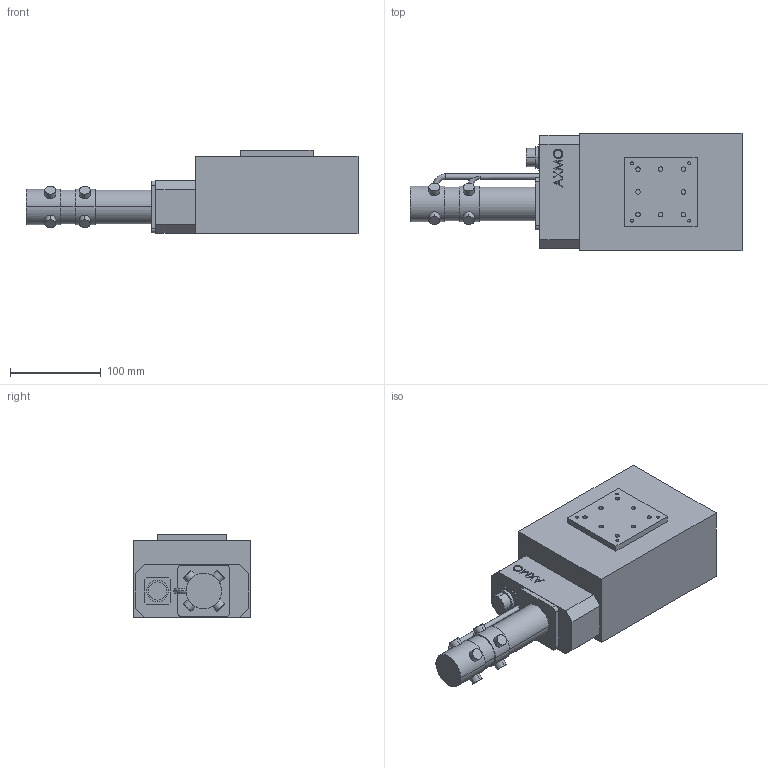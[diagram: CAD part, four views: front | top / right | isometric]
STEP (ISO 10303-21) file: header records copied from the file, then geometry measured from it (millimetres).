
FILE_DESCRIPTION (( 'STEP AP203' ), '1' );
FILE_NAME ('Vmf3-12-SMC-Axmo.STEP', '2005-04-20T13:10:31', ( 'AMETRA' ), ( 'AMETRA' ), 'SwSTEP 2.0', 'SolidWorks 2004251', '' );
FILE_SCHEMA (( 'CONFIG_CONTROL_DESIGN' ));
Length unit declared in the file: millimetre
Products named in the file (1): Vmf3-12-SMC-Axmo
Bounding box: 365.5 x 129 x 92 mm (x, y, z)
Volume: 2501710 mm3; surface area: 141772.5 mm2
Topology: 1 solids, 1 shells, 202 faces, 466 edges, 306 vertices
Faces by surface type: plane 111, cylinder 79, bspline 8, torus 4
Entity records: 7635 total; most frequent: CARTESIAN_POINT 2904, DIRECTION 962, ORIENTED_EDGE 932, EDGE_CURVE 466, AXIS2_PLACEMENT_3D 340, VERTEX_POINT 306, VECTOR 282, LINE 282
